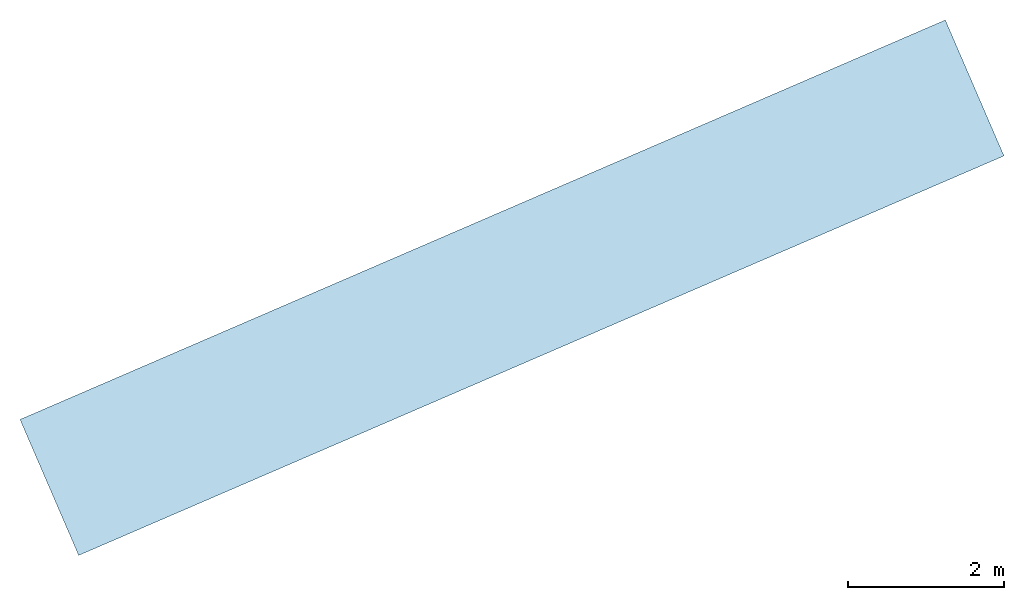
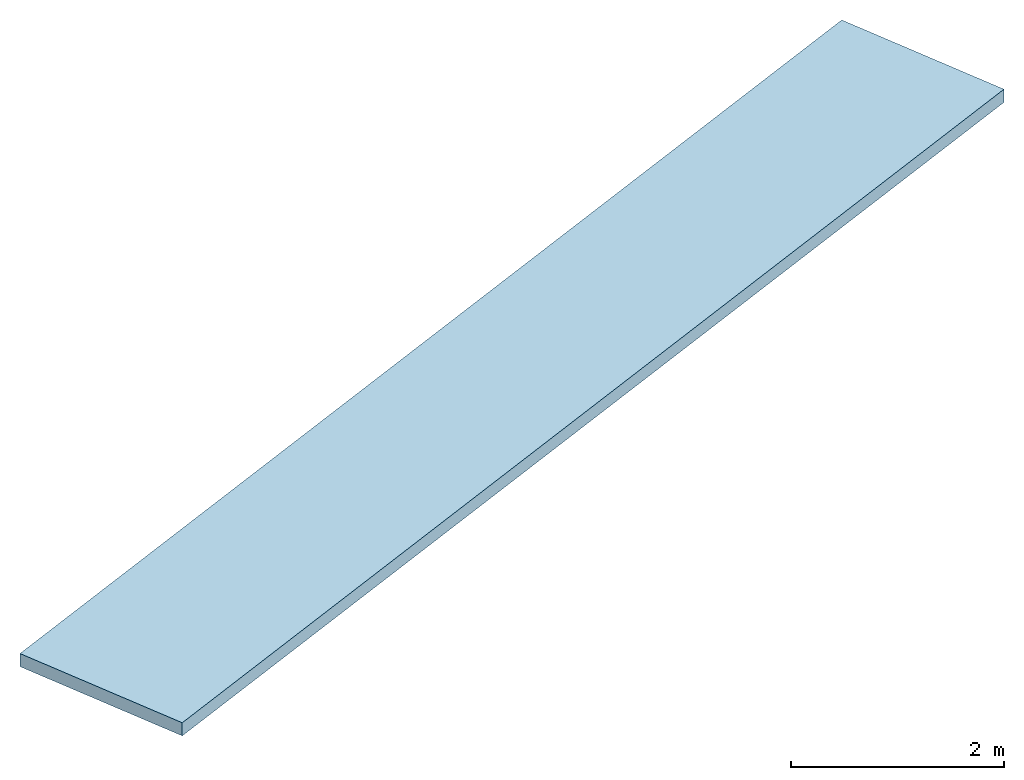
# One storey: 1 slab.
"""IFC4 building model written with IfcOpenShell, lengths in metres."""

from ifc_helpers import new_model, entity, si_unit, converted_unit, derived_unit, direction, frame, origin, place, context, subcontext, project, spatial, indexed_curve, outline, extrude, material, type_object, element, save


model = new_model("IFC4")

# Units and contexts
model_context = context("Model", 3, precision=1e-05, world=origin(), true_north=direction((6.123233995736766e-17, 1.0)))
body_context = subcontext(model_context, "Body", "Model", "MODEL_VIEW")
ifc_project = project(units=[si_unit("LENGTHUNIT", "METRE"), si_unit("AREAUNIT", "SQUARE_METRE"), si_unit("VOLUMEUNIT", "CUBIC_METRE"), converted_unit("PLANEANGLEUNIT", "DEGREE", entity("IfcPlaneAngleMeasure", 0.017453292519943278), si_unit("PLANEANGLEUNIT", "RADIAN"), dimensions=[0, 0, 0, 0, 0, 0, 0]), derived_unit("THERMALTRANSMITTANCEUNIT", [(si_unit("MASSUNIT", "GRAM", prefix="KILO"), 1), (si_unit("THERMODYNAMICTEMPERATUREUNIT", "KELVIN"), -1), (si_unit("TIMEUNIT", "SECOND"), -3)]), derived_unit("USERDEFINED", [(si_unit("MASSUNIT", "GRAM", prefix="KILO"), 1), (si_unit("THERMODYNAMICTEMPERATUREUNIT", "KELVIN"), -1), (si_unit("TIMEUNIT", "SECOND"), -2)]), derived_unit("THERMALRESISTANCEUNIT", [(si_unit("MASSUNIT", "GRAM", prefix="KILO"), -1), (si_unit("TIMEUNIT", "SECOND"), 3), (si_unit("THERMODYNAMICTEMPERATUREUNIT", "KELVIN"), 1)]), si_unit("MASSUNIT", "GRAM", prefix="KILO"), derived_unit("MOMENTOFINERTIAUNIT", [(si_unit("LENGTHUNIT", "METRE"), 4)]), derived_unit("LINEARFORCEUNIT", [(si_unit("MASSUNIT", "GRAM", prefix="KILO"), 1), (si_unit("TIMEUNIT", "SECOND"), -2)]), derived_unit("WARPINGCONSTANTUNIT", [(si_unit("LENGTHUNIT", "METRE"), 6)])], contexts=[model_context])

# Site, building, storey
site_placement = place(None, origin())
site = spatial("IfcSite", under=ifc_project, at=site_placement, Name="Default", CompositionType="ELEMENT")
building_placement = place(site_placement, frame((-21.752541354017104, -73.50235179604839, 317.2999999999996), z_axis=(0.0, 0.0, 1.0), x_axis=(-0.39637753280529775, 0.918087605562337, 0.0)))
building = spatial("IfcBuilding", under=site, at=building_placement, Name="CESFAM Coyhaique", CompositionType="ELEMENT")
storey_placement = place(building_placement, frame((0.0, 0.0, -1.9499999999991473)))
storey = spatial("IfcBuildingStorey", under=building, at=storey_placement, Name="Tunel", CompositionType="ELEMENT", Elevation=-1.9499999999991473)

# Slab
ifc_material = material(Name="HA")
slab_type = type_object("IfcSlabType", Name="Floor:Losa HA 150mm", PredefinedType="FLOOR", material=ifc_material)
slab_placement = place(storey_placement, origin())
element("IfcSlab", 1, at=slab_placement, inside=storey, type_object=slab_type, material=ifc_material, Name="Floor:Losa HA 150mm", ObjectType="Floor:Losa HA 150mm", PredefinedType="FLOOR", context=body_context, shape_type="SweptSolid", body=[
    extrude(outline(indexed_curve([(-6.4674375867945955, -0.9499999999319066), (6.4674375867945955, -0.9499999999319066), (6.4674375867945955, 0.9499999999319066), (-6.4674375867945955, 0.9499999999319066), (-6.4674375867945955, -0.9499999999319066)], self_intersect=False)), frame((3.4498933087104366, -4.529179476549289, 0.0), z_axis=(0.0, 0.0, -1.0), x_axis=(0.0, 1.0, 0.0)), (0.0, 0.0, 1.0), 0.15000000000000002),
])

save(model, "model.ifc")
